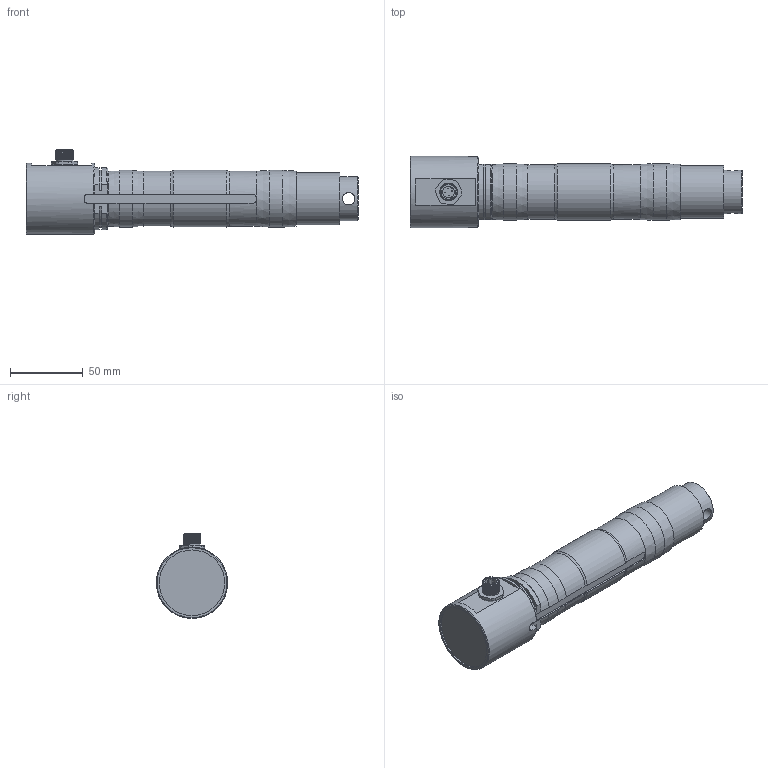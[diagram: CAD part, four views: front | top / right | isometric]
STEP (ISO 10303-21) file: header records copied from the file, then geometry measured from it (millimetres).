
FILE_DESCRIPTION(/* description */ ('Alibre Inc.'),/* implementation_level */ '2;1');
FILE_NAME(/* name */ 'export-92B332A5-5943-4A30-9A81-365A7B3C5EBD',/* time_stamp */ '2019-03-25T14:17:37+01:00',/* author */ (''),/* organization */ (''),/* preprocessor_version */ 'ST-DEVELOPER v17',/* originating_system */ 'Alibre',/* authorisation */ '');
FILE_SCHEMA (('CONFIG_CONTROL_DESIGN'));
Length unit declared in the file: centimetre
Products named in the file (6): ID_1
Bounding box: 228 x 49 x 58.29 mm (x, y, z)
Volume: 284304.5 mm3; surface area: 38330.8 mm2
Topology: 8 solids, 8 shells, 181 faces, 421 edges, 265 vertices
Faces by surface type: plane 72, cylinder 63, bspline 23, cone 16, torus 7
Full cylindrical faces by diameter (mm): 0.5 x8, 8 x2, 8.5 x1, 10 x4, 11.5 x1, 13 x1, 14.376 x1, 30 x1, 36 x1, 39 x1, 45 x1, 49 x1
Entity records: 15519 total; most frequent: CARTESIAN_POINT 11582, ORIENTED_EDGE 766, DIRECTION 507, EDGE_CURVE 378, VERTEX_POINT 255, FACE_BOUND 232, EDGE_LOOP 231, AXIS2_PLACEMENT_3D 221
